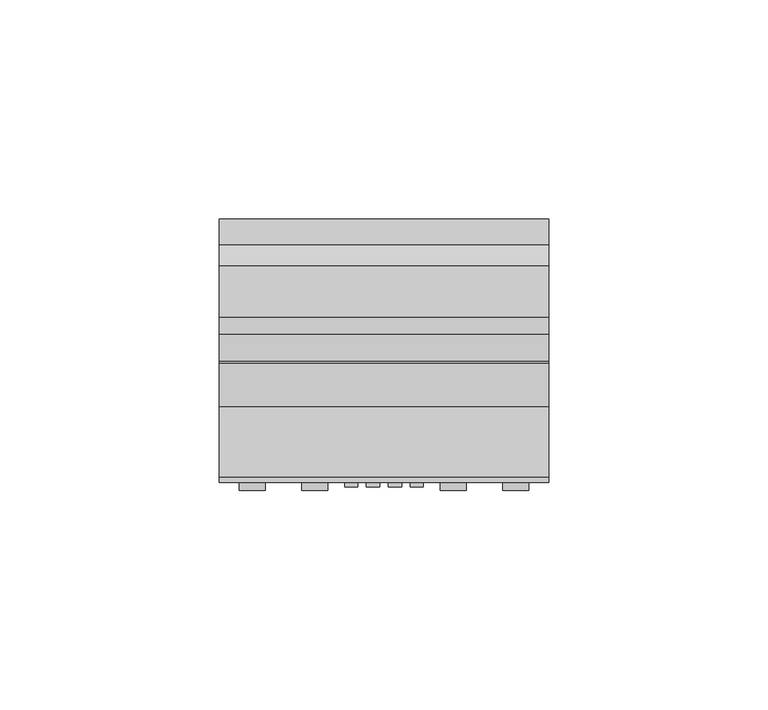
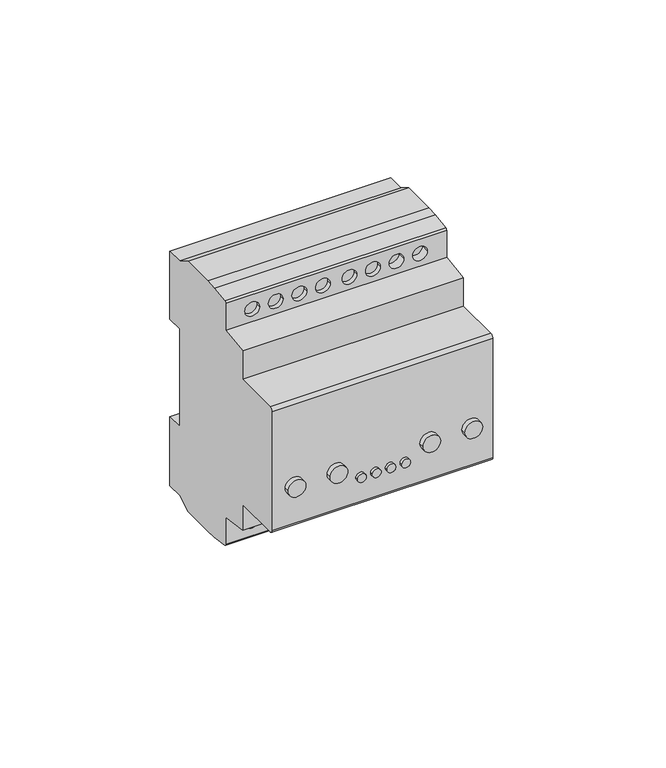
"""IFC4 building model written with IfcOpenShell, lengths in millimetres: proxy geometry, TDM_ОГРАНИЧИТЕЛЬ МОЩНОСТИ СЕРИИ ОМ-1_ОМ-630М : Диапазон 3-30кВА."""

from ifc_helpers import new_model, si_unit, point, frame, frame_2d, origin, place, context, project, spatial, polyline, circle_curve, trimmed, segment, composite_curve, outline, extrude, source, transform, mapped, element, save
from ifc_brep_helpers import plane_surface, cylinder_surface, revolved_surface, advanced_brep


def electrical_equipment_dc27a591(model_context):
    return source(origin(), model_context, "Body", "SolidModel", [
        extrude(outline(polyline([(-30.0, 16.2888153), (41.8751081, 16.2888153), (41.8751081, -37.0), (-41.2620583, -37.0), (-41.2620583, -24.4982064), (-33.6333844, -24.4982064), (-33.6333844, -16.2577284), (-41.2620583, -16.2577284), (-41.2620583, -8.3202092), (-30.0, -8.3202092), (-30.0, 16.2888153)])), frame((0.0, 6.6215731, 0.0), z_axis=(0.0, 1.0, 0.0), x_axis=(0.0, 0.0, 1.0)), (0.0, 0.0, 1.0), 10.0605473),
        extrude(outline(composite_curve([segment(trimmed(circle_curve(frame_2d((-12.8920037, -7.5)), 1.5), [point((-12.8920037, -9.0))], [point((-12.8920037, -6.0))], False, "CARTESIAN"), True, "CONTINUOUS"), segment(trimmed(circle_curve(frame_2d((-12.8920037, -7.5)), 1.5), [point((-12.8920037, -6.0))], [point((-12.8920037, -9.0))], False, "CARTESIAN"), True, "CONTINUOUS")], self_intersect=False)), frame((0.0, -23.5195581, 0.0), z_axis=(0.0, 1.0, 0.0), x_axis=(0.0, 0.0, 1.0)), (0.0, 0.0, 1.0), 1.0195581),
        extrude(outline(composite_curve([segment(trimmed(circle_curve(frame_2d((-12.8920037, -2.5)), 1.5), [point((-12.8920037, -4.0))], [point((-12.8920037, -1.0))], False, "CARTESIAN"), True, "CONTINUOUS"), segment(trimmed(circle_curve(frame_2d((-12.8920037, -2.5)), 1.5), [point((-12.8920037, -1.0))], [point((-12.8920037, -4.0))], False, "CARTESIAN"), True, "CONTINUOUS")], self_intersect=False)), frame((0.0, -23.5195581, 0.0), z_axis=(0.0, 1.0, 0.0), x_axis=(0.0, 0.0, 1.0)), (0.0, 0.0, 1.0), 1.0195581),
        extrude(outline(composite_curve([segment(trimmed(circle_curve(frame_2d((-12.8920037, 2.5)), 1.5), [point((-12.8920037, 1.0))], [point((-12.8920037, 4.0))], False, "CARTESIAN"), True, "CONTINUOUS"), segment(trimmed(circle_curve(frame_2d((-12.8920037, 2.5)), 1.5), [point((-12.8920037, 4.0))], [point((-12.8920037, 1.0))], False, "CARTESIAN"), True, "CONTINUOUS")], self_intersect=False)), frame((0.0, -23.5195581, 0.0), z_axis=(0.0, 1.0, 0.0), x_axis=(0.0, 0.0, 1.0)), (0.0, 0.0, 1.0), 1.0195581),
        extrude(outline(composite_curve([segment(trimmed(circle_curve(frame_2d((-12.8920037, 7.5)), 1.5), [point((-12.8920037, 6.0))], [point((-12.8920037, 9.0))], False, "CARTESIAN"), True, "CONTINUOUS"), segment(trimmed(circle_curve(frame_2d((-12.8920037, 7.5)), 1.5), [point((-12.8920037, 9.0))], [point((-12.8920037, 6.0))], False, "CARTESIAN"), True, "CONTINUOUS")], self_intersect=False)), frame((0.0, -23.5195581, 0.0), z_axis=(0.0, 1.0, 0.0), x_axis=(0.0, 0.0, 1.0)), (0.0, 0.0, 1.0), 1.0195581),
        extrude(outline(composite_curve([segment(trimmed(circle_curve(frame_2d((-8.2506041, -15.78125)), 3.0), [point((-8.2506041, -18.78125))], [point((-8.2506041, -12.78125))], False, "CARTESIAN"), True, "CONTINUOUS"), segment(trimmed(circle_curve(frame_2d((-8.2506041, -15.78125)), 3.0), [point((-8.2506041, -12.78125))], [point((-8.2506041, -18.78125))], False, "CARTESIAN"), True, "CONTINUOUS")], self_intersect=False)), frame((0.0, -24.2761481, 0.0), z_axis=(0.0, 1.0, 0.0), x_axis=(0.0, 0.0, 1.0)), (0.0, 0.0, 1.0), 1.7761481),
        extrude(outline(composite_curve([segment(trimmed(circle_curve(frame_2d((-8.2506041, -30.03125)), 3.0), [point((-8.2506041, -33.03125))], [point((-8.2506041, -27.03125))], False, "CARTESIAN"), True, "CONTINUOUS"), segment(trimmed(circle_curve(frame_2d((-8.2506041, -30.03125)), 3.0), [point((-8.2506041, -27.03125))], [point((-8.2506041, -33.03125))], False, "CARTESIAN"), True, "CONTINUOUS")], self_intersect=False)), frame((0.0, -24.2761481, 0.0), z_axis=(0.0, 1.0, 0.0), x_axis=(0.0, 0.0, 1.0)), (0.0, 0.0, 1.0), 1.7761481),
        extrude(outline(composite_curve([segment(trimmed(circle_curve(frame_2d((-8.2506041, 15.78125)), 3.0), [point((-8.2506041, 18.78125))], [point((-8.2506041, 12.78125))], False, "CARTESIAN"), True, "CONTINUOUS"), segment(trimmed(circle_curve(frame_2d((-8.2506041, 15.78125)), 3.0), [point((-8.2506041, 12.78125))], [point((-8.2506041, 18.78125))], False, "CARTESIAN"), True, "CONTINUOUS")], self_intersect=False)), frame((0.0, -24.2761481, 0.0), z_axis=(0.0, 1.0, 0.0), x_axis=(0.0, 0.0, 1.0)), (0.0, 0.0, 1.0), 1.7761481),
        extrude(outline(composite_curve([segment(trimmed(circle_curve(frame_2d((-8.2506041, 30.03125)), 3.0), [point((-8.2506041, 33.03125))], [point((-8.2506041, 27.03125))], False, "CARTESIAN"), True, "CONTINUOUS"), segment(trimmed(circle_curve(frame_2d((-8.2506041, 30.03125)), 3.0), [point((-8.2506041, 27.03125))], [point((-8.2506041, 33.03125))], False, "CARTESIAN"), True, "CONTINUOUS")], self_intersect=False)), frame((0.0, -24.2761481, 0.0), z_axis=(0.0, 1.0, 0.0), x_axis=(0.0, 0.0, 1.0)), (0.0, 0.0, 1.0), 1.7761481),
        advanced_brep(
        [(37.5, 31.7632568, 17.7057143), (37.5, 37.5, 17.7057143), (37.5, 37.5, 42.1525794), (37.5, 31.7632568, 42.1525794), (37.5, 26.8313796, 45.0), (37.5, 15.1734694, 45.0), (37.5, 11.3113811, 44.7297848), (37.5, 5.2356595, 43.8754137), (37.5, 4.7029063, 43.29397), (37.5, 4.7029063, 33.6333844), (37.5, -5.1996656, 32.2408796), (37.5, -5.1996656, 22.0), (37.5, -21.3777313, 22.0), (37.5, -22.5, 20.8777313), (37.5, -22.5, -21.8875602), (37.5, -21.3875602, -23.0), (37.5, -5.1996656, -23.0), (37.5, -5.1996656, -32.2408796), (37.5, 4.7029063, -33.6333844), (37.5, 4.7029063, -43.29397), (37.5, 5.2356595, -43.8754137), (37.5, 11.3113811, -44.7297848), (37.5, 15.1734694, -45.0), (37.5, 26.8313796, -45.0), (37.5, 31.7632568, -42.1525794), (37.5, 37.5, -42.1525794), (37.5, 37.5, -17.2942857), (37.5, 31.7632568, -17.2942857), (-37.5, 31.7632568, 17.7057143), (-37.5, 31.7632568, -17.2942857), (-37.5, 37.5, -17.2942857), (-37.5, 37.5, -42.1525794), (-37.5, 31.7632568, -42.1525794), (-37.5, 26.8313796, -45.0), (-37.5, 15.1734694, -45.0), (-37.5, 11.3113811, -44.7297848), (-37.5, 5.2356595, -43.8754137), (-37.5, 4.7029063, -43.29397), (-37.5, 4.7029063, -33.6333844), (-37.5, -5.1996656, -32.2408796), (-37.5, -5.1996656, -23.0), (-37.5, -21.3875602, -23.0), (-37.5, -22.5, -21.8875602), (-37.5, -22.5, 20.8777313), (-37.5, -21.3777313, 22.0), (-37.5, -5.1996656, 22.0), (-37.5, -5.1996656, 32.2408796), (-37.5, 4.7029063, 33.6333844), (-37.5, 4.7029063, 43.29397), (-37.5, 5.2356595, 43.8754137), (-37.5, 11.3113811, 44.7297848), (-37.5, 15.1734694, 45.0), (-37.5, 26.8313796, 45.0), (-37.5, 31.7632568, 42.1525794), (-37.5, 37.5, 42.1525794), (-37.5, 37.5, 17.7057143), (2.0, 7.7375398, 38.0653679), (7.0, 7.7375398, 38.0653679), (10.0, 7.7375398, 38.0653679), (15.0, 7.7375398, 38.0653679), (18.0, 7.7375398, 38.0653679), (23.0, 7.7375398, 38.0653679), (26.0, 7.7375398, 38.0653679), (31.0, 7.7375398, 38.0653679), (-2.0, 7.7375398, 38.0653679), (-7.0, 7.7375398, 38.0653679), (-10.0, 7.7375398, 38.0653679), (-15.0, 7.7375398, 38.0653679), (-18.0, 7.7375398, 38.0653679), (-23.0, 7.7375398, 38.0653679), (-26.0, 7.7375398, 38.0653679), (-31.0, 7.7375398, 38.0653679), (2.0, 7.7375398, -38.0653679), (7.0, 7.7375398, -38.0653679), (10.0, 7.7375398, -38.0653679), (15.0, 7.7375398, -38.0653679), (18.0, 7.7375398, -38.0653679), (23.0, 7.7375398, -38.0653679), (26.0, 7.7375398, -38.0653679), (31.0, 7.7375398, -38.0653679), (-2.0, 7.7375398, -38.0653679), (-7.0, 7.7375398, -38.0653679), (-10.0, 7.7375398, -38.0653679), (-15.0, 7.7375398, -38.0653679), (-18.0, 7.7375398, -38.0653679), (-23.0, 7.7375398, -38.0653679), (-26.0, 7.7375398, -38.0653679), (-31.0, 7.7375398, -38.0653679), (2.0, 4.7029063, 38.0653679), (7.0, 4.7029063, 38.0653679), (15.0, 4.7029063, 38.0653679), (10.0, 4.7029063, 38.0653679), (23.0, 4.7029063, 38.0653679), (18.0, 4.7029063, 38.0653679), (31.0, 4.7029063, 38.0653679), (26.0, 4.7029063, 38.0653679), (-7.0, 4.7029063, 38.0653679), (-2.0, 4.7029063, 38.0653679), (-15.0, 4.7029063, 38.0653679), (-10.0, 4.7029063, 38.0653679), (-23.0, 4.7029063, 38.0653679), (-18.0, 4.7029063, 38.0653679), (-31.0, 4.7029063, 38.0653679), (-26.0, 4.7029063, 38.0653679), (7.0, 4.7029063, -38.0653679), (2.0, 4.7029063, -38.0653679), (15.0, 4.7029063, -38.0653679), (10.0, 4.7029063, -38.0653679), (23.0, 4.7029063, -38.0653679), (18.0, 4.7029063, -38.0653679), (31.0, 4.7029063, -38.0653679), (26.0, 4.7029063, -38.0653679), (-7.0, 4.7029063, -38.0653679), (-2.0, 4.7029063, -38.0653679), (-15.0, 4.7029063, -38.0653679), (-10.0, 4.7029063, -38.0653679), (-23.0, 4.7029063, -38.0653679), (-18.0, 4.7029063, -38.0653679), (-31.0, 4.7029063, -38.0653679), (-26.0, 4.7029063, -38.0653679)],
        [
            (0, 1),
            (1, 2),
            (2, 3),
            (3, 4),
            (4, 5),
            (5, 6, circle_curve(frame((37.5, 15.1734694, 17.2651702), z_axis=(1.0, 0.0, 0.0), x_axis=(0.0, -1.0, 0.0)), 27.7348298)),
            (6, 7),
            (7, 8, circle_curve(frame((37.5, 5.3219848, 43.2615255), z_axis=(1.0, 0.0, 0.0), x_axis=(0.0, -1.0, 0.0)), 0.6199281)),
            (8, 9),
            (9, 10),
            (10, 11),
            (11, 12),
            (12, 13, circle_curve(frame((37.5, -21.3777313, 20.8777313), z_axis=(1.0, 0.0, 0.0), x_axis=(0.0, -1.0, 0.0)), 1.1222687)),
            (13, 14),
            (14, 15, circle_curve(frame((37.5, -21.3875602, -21.8875602), z_axis=(1.0, 0.0, 0.0), x_axis=(0.0, -1.0, 0.0)), 1.1124398)),
            (15, 16),
            (16, 17),
            (17, 18),
            (18, 19),
            (19, 20, circle_curve(frame((37.5, 5.3219848, -43.2615255), z_axis=(1.0, 0.0, 0.0), x_axis=(0.0, -1.0, 0.0)), 0.6199281)),
            (20, 21),
            (21, 22, circle_curve(frame((37.5, 15.1734694, -17.2651702), z_axis=(1.0, 0.0, 0.0), x_axis=(0.0, -1.0, 0.0)), 27.7348298)),
            (22, 23),
            (23, 24),
            (24, 25),
            (25, 26),
            (26, 27),
            (27, 0),
            (28, 29),
            (29, 30),
            (30, 31),
            (31, 32),
            (32, 33),
            (33, 34),
            (34, 35, circle_curve(frame((-37.5, 15.1734694, -17.2651702), z_axis=(-1.0, 0.0, 0.0), x_axis=(0.0, -1.0, 0.0)), 27.7348298)),
            (35, 36),
            (36, 37, circle_curve(frame((-37.5, 5.3219848, -43.2615255), z_axis=(-1.0, 0.0, 0.0), x_axis=(0.0, -1.0, 0.0)), 0.6199281)),
            (37, 38),
            (38, 39),
            (39, 40),
            (40, 41),
            (41, 42, circle_curve(frame((-37.5, -21.3875602, -21.8875602), z_axis=(-1.0, 0.0, 0.0), x_axis=(0.0, -1.0, 0.0)), 1.1124398)),
            (42, 43),
            (43, 44, circle_curve(frame((-37.5, -21.3777313, 20.8777313), z_axis=(-1.0, 0.0, 0.0), x_axis=(0.0, -1.0, 0.0)), 1.1222687)),
            (44, 45),
            (45, 46),
            (46, 47),
            (47, 48),
            (48, 49, circle_curve(frame((-37.5, 5.3219848, 43.2615255), z_axis=(-1.0, 0.0, 0.0), x_axis=(0.0, -1.0, 0.0)), 0.6199281)),
            (49, 50),
            (50, 51, circle_curve(frame((-37.5, 15.1734694, 17.2651702), z_axis=(-1.0, 0.0, 0.0), x_axis=(0.0, -1.0, 0.0)), 27.7348298)),
            (51, 52),
            (52, 53),
            (53, 54),
            (54, 55),
            (55, 28),
            (0, 28),
            (55, 1),
            (54, 2),
            (12, 44),
            (43, 13),
            (25, 31),
            (30, 26),
            (29, 27),
            (14, 42),
            (41, 15),
            (56, 57, circle_curve(frame((4.5, 7.7375398, 38.0653679), z_axis=(0.0, -1.0, 0.0), x_axis=(1.0, 0.0, 0.0)), 2.5)),
            (57, 56, circle_curve(frame((4.5, 7.7375398, 38.0653679), z_axis=(0.0, -1.0, 0.0), x_axis=(1.0, 0.0, 0.0)), 2.5)),
            (58, 59, circle_curve(frame((12.5, 7.7375398, 38.0653679), z_axis=(0.0, -1.0, 0.0), x_axis=(1.0, 0.0, 0.0)), 2.5)),
            (59, 58, circle_curve(frame((12.5, 7.7375398, 38.0653679), z_axis=(0.0, -1.0, 0.0), x_axis=(1.0, 0.0, 0.0)), 2.5)),
            (60, 61, circle_curve(frame((20.5, 7.7375398, 38.0653679), z_axis=(0.0, -1.0, 0.0), x_axis=(1.0, 0.0, 0.0)), 2.5)),
            (61, 60, circle_curve(frame((20.5, 7.7375398, 38.0653679), z_axis=(0.0, -1.0, 0.0), x_axis=(1.0, 0.0, 0.0)), 2.5)),
            (62, 63, circle_curve(frame((28.5, 7.7375398, 38.0653679), z_axis=(0.0, -1.0, 0.0), x_axis=(1.0, 0.0, 0.0)), 2.5)),
            (63, 62, circle_curve(frame((28.5, 7.7375398, 38.0653679), z_axis=(0.0, -1.0, 0.0), x_axis=(1.0, 0.0, 0.0)), 2.5)),
            (64, 65, circle_curve(frame((-4.5, 7.7375398, 38.0653679), z_axis=(0.0, -1.0, 0.0), x_axis=(-1.0, 0.0, 0.0)), 2.5)),
            (65, 64, circle_curve(frame((-4.5, 7.7375398, 38.0653679), z_axis=(0.0, -1.0, 0.0), x_axis=(-1.0, 0.0, 0.0)), 2.5)),
            (66, 67, circle_curve(frame((-12.5, 7.7375398, 38.0653679), z_axis=(0.0, -1.0, 0.0), x_axis=(-1.0, 0.0, 0.0)), 2.5)),
            (67, 66, circle_curve(frame((-12.5, 7.7375398, 38.0653679), z_axis=(0.0, -1.0, 0.0), x_axis=(-1.0, 0.0, 0.0)), 2.5)),
            (68, 69, circle_curve(frame((-20.5, 7.7375398, 38.0653679), z_axis=(0.0, -1.0, 0.0), x_axis=(-1.0, 0.0, 0.0)), 2.5)),
            (69, 68, circle_curve(frame((-20.5, 7.7375398, 38.0653679), z_axis=(0.0, -1.0, 0.0), x_axis=(-1.0, 0.0, 0.0)), 2.5)),
            (70, 71, circle_curve(frame((-28.5, 7.7375398, 38.0653679), z_axis=(0.0, -1.0, 0.0), x_axis=(-1.0, 0.0, 0.0)), 2.5)),
            (71, 70, circle_curve(frame((-28.5, 7.7375398, 38.0653679), z_axis=(0.0, -1.0, 0.0), x_axis=(-1.0, 0.0, 0.0)), 2.5)),
            (72, 73, circle_curve(frame((4.5, 7.7375398, -38.0653679), z_axis=(0.0, -1.0, 0.0), x_axis=(1.0, 0.0, 0.0)), 2.5)),
            (73, 72, circle_curve(frame((4.5, 7.7375398, -38.0653679), z_axis=(0.0, -1.0, 0.0), x_axis=(1.0, 0.0, 0.0)), 2.5)),
            (74, 75, circle_curve(frame((12.5, 7.7375398, -38.0653679), z_axis=(0.0, -1.0, 0.0), x_axis=(1.0, 0.0, 0.0)), 2.5)),
            (75, 74, circle_curve(frame((12.5, 7.7375398, -38.0653679), z_axis=(0.0, -1.0, 0.0), x_axis=(1.0, 0.0, 0.0)), 2.5)),
            (76, 77, circle_curve(frame((20.5, 7.7375398, -38.0653679), z_axis=(0.0, -1.0, 0.0), x_axis=(1.0, 0.0, 0.0)), 2.5)),
            (77, 76, circle_curve(frame((20.5, 7.7375398, -38.0653679), z_axis=(0.0, -1.0, 0.0), x_axis=(1.0, 0.0, 0.0)), 2.5)),
            (78, 79, circle_curve(frame((28.5, 7.7375398, -38.0653679), z_axis=(0.0, -1.0, 0.0), x_axis=(1.0, 0.0, 0.0)), 2.5)),
            (79, 78, circle_curve(frame((28.5, 7.7375398, -38.0653679), z_axis=(0.0, -1.0, 0.0), x_axis=(1.0, 0.0, 0.0)), 2.5)),
            (80, 81, circle_curve(frame((-4.5, 7.7375398, -38.0653679), z_axis=(0.0, -1.0, 0.0), x_axis=(-1.0, 0.0, 0.0)), 2.5)),
            (81, 80, circle_curve(frame((-4.5, 7.7375398, -38.0653679), z_axis=(0.0, -1.0, 0.0), x_axis=(-1.0, 0.0, 0.0)), 2.5)),
            (82, 83, circle_curve(frame((-12.5, 7.7375398, -38.0653679), z_axis=(0.0, -1.0, 0.0), x_axis=(-1.0, 0.0, 0.0)), 2.5)),
            (83, 82, circle_curve(frame((-12.5, 7.7375398, -38.0653679), z_axis=(0.0, -1.0, 0.0), x_axis=(-1.0, 0.0, 0.0)), 2.5)),
            (84, 85, circle_curve(frame((-20.5, 7.7375398, -38.0653679), z_axis=(0.0, -1.0, 0.0), x_axis=(-1.0, 0.0, 0.0)), 2.5)),
            (85, 84, circle_curve(frame((-20.5, 7.7375398, -38.0653679), z_axis=(0.0, -1.0, 0.0), x_axis=(-1.0, 0.0, 0.0)), 2.5)),
            (86, 87, circle_curve(frame((-28.5, 7.7375398, -38.0653679), z_axis=(0.0, -1.0, 0.0), x_axis=(-1.0, 0.0, 0.0)), 2.5)),
            (87, 86, circle_curve(frame((-28.5, 7.7375398, -38.0653679), z_axis=(0.0, -1.0, 0.0), x_axis=(-1.0, 0.0, 0.0)), 2.5)),
            (4, 52),
            (51, 5),
            (50, 6),
            (49, 7),
            (48, 8),
            (11, 45),
            (56, 88),
            (88, 89, circle_curve(frame((4.5, 4.7029063, 38.0653679), z_axis=(0.0, -1.0, 0.0), x_axis=(1.0, 0.0, 0.0)), 2.5)),
            (89, 57),
            (89, 88, circle_curve(frame((4.5, 4.7029063, 38.0653679), z_axis=(0.0, -1.0, 0.0), x_axis=(1.0, 0.0, 0.0)), 2.5)),
            (53, 3),
            (23, 33),
            (32, 24),
            (47, 9),
            (90, 91, circle_curve(frame((12.5, 4.7029063, 38.0653679), z_axis=(0.0, 1.0, 0.0), x_axis=(1.0, 0.0, 0.0)), 2.5)),
            (91, 90, circle_curve(frame((12.5, 4.7029063, 38.0653679), z_axis=(0.0, 1.0, 0.0), x_axis=(1.0, 0.0, 0.0)), 2.5)),
            (92, 93, circle_curve(frame((20.5, 4.7029063, 38.0653679), z_axis=(0.0, 1.0, 0.0), x_axis=(1.0, 0.0, 0.0)), 2.5)),
            (93, 92, circle_curve(frame((20.5, 4.7029063, 38.0653679), z_axis=(0.0, 1.0, 0.0), x_axis=(1.0, 0.0, 0.0)), 2.5)),
            (94, 95, circle_curve(frame((28.5, 4.7029063, 38.0653679), z_axis=(0.0, 1.0, 0.0), x_axis=(1.0, 0.0, 0.0)), 2.5)),
            (95, 94, circle_curve(frame((28.5, 4.7029063, 38.0653679), z_axis=(0.0, 1.0, 0.0), x_axis=(1.0, 0.0, 0.0)), 2.5)),
            (96, 97, circle_curve(frame((-4.5, 4.7029063, 38.0653679), z_axis=(0.0, 1.0, 0.0), x_axis=(-1.0, 0.0, 0.0)), 2.5)),
            (97, 96, circle_curve(frame((-4.5, 4.7029063, 38.0653679), z_axis=(0.0, 1.0, 0.0), x_axis=(-1.0, 0.0, 0.0)), 2.5)),
            (98, 99, circle_curve(frame((-12.5, 4.7029063, 38.0653679), z_axis=(0.0, 1.0, 0.0), x_axis=(-1.0, 0.0, 0.0)), 2.5)),
            (99, 98, circle_curve(frame((-12.5, 4.7029063, 38.0653679), z_axis=(0.0, 1.0, 0.0), x_axis=(-1.0, 0.0, 0.0)), 2.5)),
            (100, 101, circle_curve(frame((-20.5, 4.7029063, 38.0653679), z_axis=(0.0, 1.0, 0.0), x_axis=(-1.0, 0.0, 0.0)), 2.5)),
            (101, 100, circle_curve(frame((-20.5, 4.7029063, 38.0653679), z_axis=(0.0, 1.0, 0.0), x_axis=(-1.0, 0.0, 0.0)), 2.5)),
            (102, 103, circle_curve(frame((-28.5, 4.7029063, 38.0653679), z_axis=(0.0, 1.0, 0.0), x_axis=(-1.0, 0.0, 0.0)), 2.5)),
            (103, 102, circle_curve(frame((-28.5, 4.7029063, 38.0653679), z_axis=(0.0, 1.0, 0.0), x_axis=(-1.0, 0.0, 0.0)), 2.5)),
            (46, 10),
            (40, 16),
            (39, 17),
            (38, 18),
            (37, 19),
            (104, 105, circle_curve(frame((4.5, 4.7029063, -38.0653679), z_axis=(0.0, 1.0, 0.0), x_axis=(1.0, 0.0, 0.0)), 2.5)),
            (105, 104, circle_curve(frame((4.5, 4.7029063, -38.0653679), z_axis=(0.0, 1.0, 0.0), x_axis=(1.0, 0.0, 0.0)), 2.5)),
            (106, 107, circle_curve(frame((12.5, 4.7029063, -38.0653679), z_axis=(0.0, 1.0, 0.0), x_axis=(1.0, 0.0, 0.0)), 2.5)),
            (107, 106, circle_curve(frame((12.5, 4.7029063, -38.0653679), z_axis=(0.0, 1.0, 0.0), x_axis=(1.0, 0.0, 0.0)), 2.5)),
            (108, 109, circle_curve(frame((20.5, 4.7029063, -38.0653679), z_axis=(0.0, 1.0, 0.0), x_axis=(1.0, 0.0, 0.0)), 2.5)),
            (109, 108, circle_curve(frame((20.5, 4.7029063, -38.0653679), z_axis=(0.0, 1.0, 0.0), x_axis=(1.0, 0.0, 0.0)), 2.5)),
            (110, 111, circle_curve(frame((28.5, 4.7029063, -38.0653679), z_axis=(0.0, 1.0, 0.0), x_axis=(1.0, 0.0, 0.0)), 2.5)),
            (111, 110, circle_curve(frame((28.5, 4.7029063, -38.0653679), z_axis=(0.0, 1.0, 0.0), x_axis=(1.0, 0.0, 0.0)), 2.5)),
            (112, 113, circle_curve(frame((-4.5, 4.7029063, -38.0653679), z_axis=(0.0, 1.0, 0.0), x_axis=(-1.0, 0.0, 0.0)), 2.5)),
            (113, 112, circle_curve(frame((-4.5, 4.7029063, -38.0653679), z_axis=(0.0, 1.0, 0.0), x_axis=(-1.0, 0.0, 0.0)), 2.5)),
            (114, 115, circle_curve(frame((-12.5, 4.7029063, -38.0653679), z_axis=(0.0, 1.0, 0.0), x_axis=(-1.0, 0.0, 0.0)), 2.5)),
            (115, 114, circle_curve(frame((-12.5, 4.7029063, -38.0653679), z_axis=(0.0, 1.0, 0.0), x_axis=(-1.0, 0.0, 0.0)), 2.5)),
            (116, 117, circle_curve(frame((-20.5, 4.7029063, -38.0653679), z_axis=(0.0, 1.0, 0.0), x_axis=(-1.0, 0.0, 0.0)), 2.5)),
            (117, 116, circle_curve(frame((-20.5, 4.7029063, -38.0653679), z_axis=(0.0, 1.0, 0.0), x_axis=(-1.0, 0.0, 0.0)), 2.5)),
            (118, 119, circle_curve(frame((-28.5, 4.7029063, -38.0653679), z_axis=(0.0, 1.0, 0.0), x_axis=(-1.0, 0.0, 0.0)), 2.5)),
            (119, 118, circle_curve(frame((-28.5, 4.7029063, -38.0653679), z_axis=(0.0, 1.0, 0.0), x_axis=(-1.0, 0.0, 0.0)), 2.5)),
            (36, 20),
            (35, 21),
            (34, 22),
            (58, 91),
            (90, 59),
            (60, 93),
            (92, 61),
            (62, 95),
            (94, 63),
            (64, 97),
            (96, 65),
            (66, 99),
            (98, 67),
            (68, 101),
            (100, 69),
            (70, 103),
            (102, 71),
            (72, 105),
            (104, 73),
            (74, 107),
            (106, 75),
            (76, 109),
            (108, 77),
            (78, 111),
            (110, 79),
            (80, 113),
            (112, 81),
            (82, 115),
            (114, 83),
            (84, 117),
            (116, 85),
            (86, 119),
            (118, 87),
        ],
        [
            plane_surface(frame((37.5, 31.7632568, 17.7057143), z_axis=(1.0, 0.0, 0.0), x_axis=(0.0, 1.0, 0.0))),
            plane_surface(frame((-37.5, 31.7632568, 17.7057143), z_axis=(-1.0, 0.0, 0.0), x_axis=(0.0, -1.0, 0.0))),
            plane_surface(frame((37.5, 31.7632568, 17.7057143), z_axis=(0.0, 0.0, -1.0), x_axis=(-1.0, 0.0, 0.0))),
            plane_surface(frame((37.5, 37.5, 17.7057143), z_axis=(0.0, 1.0, 0.0), x_axis=(-1.0, 0.0, 0.0))),
            cylinder_surface(frame((-37.5, -21.3777313, 20.8777313), z_axis=(1.0, 0.0, 0.0), x_axis=(0.0, -1.0, 0.0)), 1.1222687),
            plane_surface(frame((37.5, 37.5, -42.1525794), z_axis=(0.0, 1.0, 0.0), x_axis=(-1.0, 0.0, 0.0))),
            plane_surface(frame((37.5, 37.5, -17.2942857), z_axis=(0.0, 0.0, 1.0), x_axis=(-1.0, 0.0, 0.0))),
            plane_surface(frame((37.5, 31.7632568, -17.2942857), z_axis=(0.0, 1.0, 0.0), x_axis=(-1.0, 0.0, 0.0))),
            cylinder_surface(frame((-37.5, -21.3875602, -21.8875602), z_axis=(1.0, 0.0, 0.0), x_axis=(0.0, -1.0, 0.0)), 1.1124398),
            plane_surface(frame((7.0, 7.7375398, 38.0653679), z_axis=(0.0, -1.0, 0.0), x_axis=(0.0, 0.0, -1.0))),
            plane_surface(frame((37.5, 26.8313796, 45.0), z_axis=(0.0, 0.0, 1.0), x_axis=(-1.0, 0.0, 0.0))),
            cylinder_surface(frame((-37.5, 15.1734694, 17.2651702), z_axis=(1.0, 0.0, 0.0), x_axis=(0.0, -1.0, 0.0)), 27.7348298),
            plane_surface(frame((37.5, 11.3113811, 44.7297848), z_axis=(0.0, -0.1392504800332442, 0.9902571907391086), x_axis=(-1.0, 0.0, 0.0))),
            cylinder_surface(frame((-37.5, 5.3219848, 43.2615255), z_axis=(1.0, 0.0, 0.0), x_axis=(0.0, -1.0, 0.0)), 0.6199281),
            plane_surface(frame((37.5, -5.1996656, 22.0), z_axis=(0.0, 0.0, 1.0), x_axis=(-1.0, 0.0, 0.0))),
            revolved_surface(polyline([(7.0, 4.7029063, 38.0653679), (7.0, 7.7375398, 38.0653679)]), (4.5, 7.7375398, 38.0653679), (0.0, -1.0, 0.0)),
            plane_surface(frame((37.5, 37.5, 42.1525794), z_axis=(0.0, 0.0, 1.0), x_axis=(-1.0, 0.0, 0.0))),
            plane_surface(frame((37.5, 31.7632568, 42.1525794), z_axis=(0.0, 0.5000000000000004, 0.8660254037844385), x_axis=(-1.0, 0.0, 0.0))),
            plane_surface(frame((37.5, 26.8313796, -45.0), z_axis=(0.0, 0.5000000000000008, -0.8660254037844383), x_axis=(-1.0, 0.0, 0.0))),
            plane_surface(frame((37.5, 31.7632568, -42.1525794), z_axis=(0.0, 0.0, -1.0), x_axis=(-1.0, 0.0, 0.0))),
            plane_surface(frame((37.5, 4.7029063, 43.29397), z_axis=(0.0, -1.0, 0.0), x_axis=(-1.0, 0.0, 0.0))),
            plane_surface(frame((37.5, 4.7029063, 33.6333844), z_axis=(0.0, -0.13925048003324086, 0.990257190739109), x_axis=(-1.0, 0.0, 0.0))),
            plane_surface(frame((37.5, -5.1996656, 32.2408796), z_axis=(0.0, -1.0, 0.0), x_axis=(-1.0, 0.0, 0.0))),
            plane_surface(frame((37.5, -22.5, 20.8777313), z_axis=(0.0, -1.0, 0.0), x_axis=(-1.0, 0.0, 0.0))),
            plane_surface(frame((37.5, -21.3875602, -23.0), z_axis=(0.0, 0.0, -1.0), x_axis=(-1.0, 0.0, 0.0))),
            plane_surface(frame((37.5, -5.1996656, -23.0), z_axis=(0.0, -1.0, 0.0), x_axis=(-1.0, 0.0, 0.0))),
            plane_surface(frame((37.5, -5.1996656, -32.2408796), z_axis=(0.0, -0.13925048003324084, -0.990257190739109), x_axis=(-1.0, 0.0, 0.0))),
            plane_surface(frame((37.5, 4.7029063, -33.6333844), z_axis=(0.0, -1.0, 0.0), x_axis=(-1.0, 0.0, 0.0))),
            cylinder_surface(frame((-37.5, 5.3219848, -43.2615255), z_axis=(1.0, 0.0, 0.0), x_axis=(0.0, -1.0, 0.0)), 0.6199281),
            plane_surface(frame((37.5, 5.2356595, -43.8754137), z_axis=(0.0, -0.13925048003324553, -0.9902571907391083), x_axis=(-1.0, 0.0, 0.0))),
            cylinder_surface(frame((-37.5, 15.1734694, -17.2651702), z_axis=(1.0, 0.0, 0.0), x_axis=(0.0, -1.0, 0.0)), 27.7348298),
            plane_surface(frame((37.5, 15.1734694, -45.0), z_axis=(0.0, 0.0, -1.0), x_axis=(-1.0, 0.0, 0.0))),
            revolved_surface(polyline([(15.0, 4.7029063, 38.0653679), (15.0, 7.7375398, 38.0653679)]), (12.5, 0.0, 38.0653679), (0.0, -1.0, 0.0)),
            revolved_surface(polyline([(23.0, 4.7029063, 38.0653679), (23.0, 7.7375398, 38.0653679)]), (20.5, 0.0, 38.0653679), (0.0, -1.0, 0.0)),
            revolved_surface(polyline([(31.0, 4.7029063, 38.0653679), (31.0, 7.7375398, 38.0653679)]), (28.5, 0.0, 38.0653679), (0.0, -1.0, 0.0)),
            revolved_surface(polyline([(-7.0, 4.7029063, 38.0653679), (-7.0, 7.7375398, 38.0653679)]), (-4.5, 0.0, 38.0653679), (0.0, -1.0, 0.0)),
            revolved_surface(polyline([(-15.0, 4.7029063, 38.0653679), (-15.0, 7.7375398, 38.0653679)]), (-12.5, 0.0, 38.0653679), (0.0, -1.0, 0.0)),
            revolved_surface(polyline([(-23.0, 4.7029063, 38.0653679), (-23.0, 7.7375398, 38.0653679)]), (-20.5, 0.0, 38.0653679), (0.0, -1.0, 0.0)),
            revolved_surface(polyline([(-31.0, 4.7029063, 38.0653679), (-31.0, 7.7375398, 38.0653679)]), (-28.5, 0.0, 38.0653679), (0.0, -1.0, 0.0)),
            revolved_surface(polyline([(7.0, 4.7029063, -38.0653679), (7.0, 7.7375398, -38.0653679)]), (4.5, 0.0, -38.0653679), (0.0, -1.0, 0.0)),
            revolved_surface(polyline([(15.0, 4.7029063, -38.0653679), (15.0, 7.7375398, -38.0653679)]), (12.5, 0.0, -38.0653679), (0.0, -1.0, 0.0)),
            revolved_surface(polyline([(23.0, 4.7029063, -38.0653679), (23.0, 7.7375398, -38.0653679)]), (20.5, 0.0, -38.0653679), (0.0, -1.0, 0.0)),
            revolved_surface(polyline([(31.0, 4.7029063, -38.0653679), (31.0, 7.7375398, -38.0653679)]), (28.5, 0.0, -38.0653679), (0.0, -1.0, 0.0)),
            revolved_surface(polyline([(-7.0, 4.7029063, -38.0653679), (-7.0, 7.7375398, -38.0653679)]), (-4.5, 0.0, -38.0653679), (0.0, -1.0, 0.0)),
            revolved_surface(polyline([(-15.0, 4.7029063, -38.0653679), (-15.0, 7.7375398, -38.0653679)]), (-12.5, 0.0, -38.0653679), (0.0, -1.0, 0.0)),
            revolved_surface(polyline([(-23.0, 4.7029063, -38.0653679), (-23.0, 7.7375398, -38.0653679)]), (-20.5, 0.0, -38.0653679), (0.0, -1.0, 0.0)),
            revolved_surface(polyline([(-31.0, 4.7029063, -38.0653679), (-31.0, 7.7375398, -38.0653679)]), (-28.5, 0.0, -38.0653679), (0.0, -1.0, 0.0)),
        ],
        [
            (0, [[1, 2, 3, 4, 5, 6, 7, 8, 9, 10, 11, 12, 13, 14, 15, 16, 17, 18, 19, 20, 21, 22, 23, 24, 25, 26, 27, 28]]),
            (1, [[29, 30, 31, 32, 33, 34, 35, 36, 37, 38, 39, 40, 41, 42, 43, 44, 45, 46, 47, 48, 49, 50, 51, 52, 53, 54, 55, 56]]),
            (2, [[-1, 57, -56, 58]]),
            (3, [[-2, -58, -55, 59]]),
            (4, [[-13, 60, -44, 61]]),
            (5, [[-26, 62, -31, 63]]),
            (6, [[-27, -63, -30, 64]]),
            (7, [[-28, -64, -29, -57]]),
            (8, [[-15, 65, -42, 66]]),
            (9, [[67, 68]]),
            (9, [[69, 70]]),
            (9, [[71, 72]]),
            (9, [[73, 74]]),
            (9, [[75, 76]]),
            (9, [[77, 78]]),
            (9, [[79, 80]]),
            (9, [[81, 82]]),
            (9, [[83, 84]]),
            (9, [[85, 86]]),
            (9, [[87, 88]]),
            (9, [[89, 90]]),
            (9, [[91, 92]]),
            (9, [[93, 94]]),
            (9, [[95, 96]]),
            (9, [[97, 98]]),
            (10, [[-5, 99, -52, 100]]),
            (11, [[-6, -100, -51, 101]]),
            (12, [[-7, -101, -50, 102]]),
            (13, [[-8, -102, -49, 103]]),
            (14, [[-12, 104, -45, -60]]),
            (15, [[-67, 105, 106, 107]]),
            (15, [[-68, -107, 108, -105]]),
            (16, [[-3, -59, -54, 109]]),
            (17, [[-4, -109, -53, -99]]),
            (18, [[-24, 110, -33, 111]]),
            (19, [[-25, -111, -32, -62]]),
            (20, [[-9, -103, -48, 112], [-106, -108], [113, 114], [115, 116], [117, 118], [119, 120], [121, 122], [123, 124], [125, 126]]),
            (21, [[-10, -112, -47, 127]]),
            (22, [[-11, -127, -46, -104]]),
            (23, [[-14, -61, -43, -65]]),
            (24, [[-16, -66, -41, 128]]),
            (25, [[-17, -128, -40, 129]]),
            (26, [[-18, -129, -39, 130]]),
            (27, [[-19, -130, -38, 131], [132, 133], [134, 135], [136, 137], [138, 139], [140, 141], [142, 143], [144, 145], [146, 147]]),
            (28, [[-20, -131, -37, 148]]),
            (29, [[-21, -148, -36, 149]]),
            (30, [[-22, -149, -35, 150]]),
            (31, [[-23, -150, -34, -110]]),
            (32, [[-69, 151, -113, 152]]),
            (32, [[-70, -152, -114, -151]]),
            (33, [[-71, 153, -115, 154]]),
            (33, [[-72, -154, -116, -153]]),
            (34, [[-73, 155, -117, 156]]),
            (34, [[-74, -156, -118, -155]]),
            (35, [[-75, 157, -119, 158]]),
            (35, [[-76, -158, -120, -157]]),
            (36, [[-77, 159, -121, 160]]),
            (36, [[-78, -160, -122, -159]]),
            (37, [[-79, 161, -123, 162]]),
            (37, [[-80, -162, -124, -161]]),
            (38, [[-81, 163, -125, 164]]),
            (38, [[-82, -164, -126, -163]]),
            (39, [[-83, 165, -132, 166]]),
            (39, [[-84, -166, -133, -165]]),
            (40, [[-85, 167, -134, 168]]),
            (40, [[-86, -168, -135, -167]]),
            (41, [[-87, 169, -136, 170]]),
            (41, [[-88, -170, -137, -169]]),
            (42, [[-89, 171, -138, 172]]),
            (42, [[-90, -172, -139, -171]]),
            (43, [[-91, 173, -140, 174]]),
            (43, [[-92, -174, -141, -173]]),
            (44, [[-93, 175, -142, 176]]),
            (44, [[-94, -176, -143, -175]]),
            (45, [[-95, 177, -144, 178]]),
            (45, [[-96, -178, -145, -177]]),
            (46, [[-97, 179, -146, 180]]),
            (46, [[-98, -180, -147, -179]]),
        ],
    ),
    ])


if __name__ == "__main__":
    model = new_model("IFC4")
    model_context = context("Model", 3, world=origin())
    ifc_project = project(units=[si_unit("LENGTHUNIT", "METRE", prefix="MILLI")], contexts=[model_context])
    site = spatial("IfcSite", under=ifc_project)
    building = spatial("IfcBuilding", under=site)
    placement = place(None, origin())
    electrical_equipment_shape = electrical_equipment_dc27a591(model_context)
    element("IfcBuildingElementProxy", 1, Name="TDM_ОГРАНИЧИТЕЛЬ МОЩНОСТИ СЕРИИ ОМ-1_ОМ-630М : Диапазон 3-30кВА", ObjectType="TDM_ОГРАНИЧИТЕЛЬ МОЩНОСТИ СЕРИИ ОМ-1_ОМ-630М : Диапазон 3-30кВА", at=placement, inside=building, context=model_context, shape_type="MappedRepresentation", body=[
        mapped(electrical_equipment_shape, transform((0.0, 0.0, 0.0), x_axis=(1.0, 0.0, 0.0), y_axis=(0.0, 1.0, 0.0), z_axis=(0.0, 0.0, 1.0))),
    ])
    save(model, "model.ifc")
